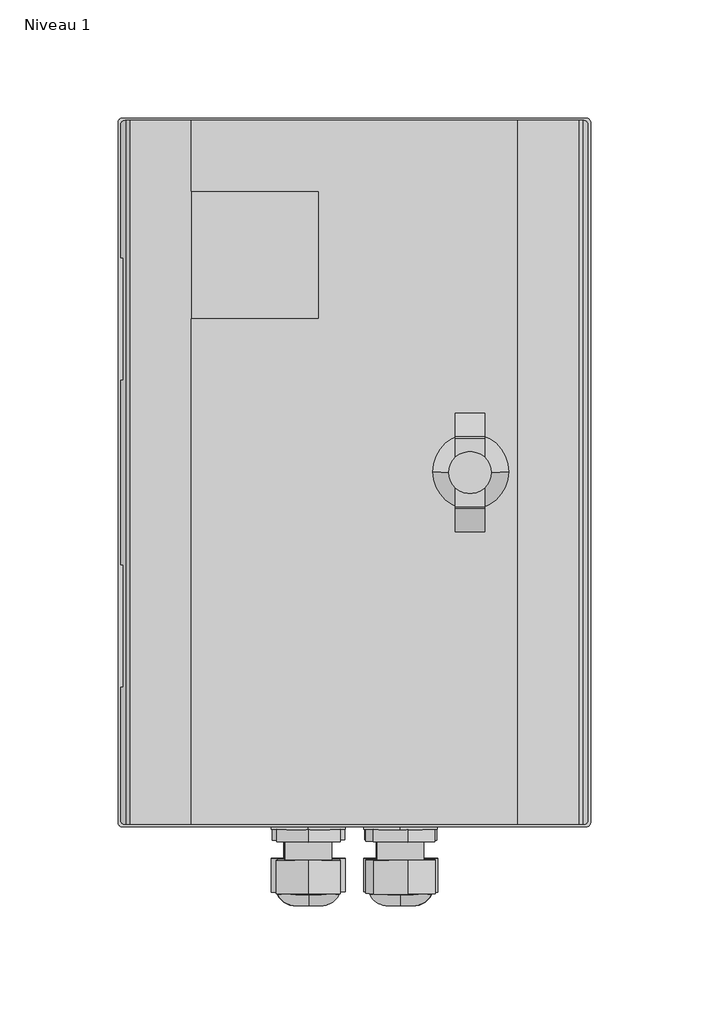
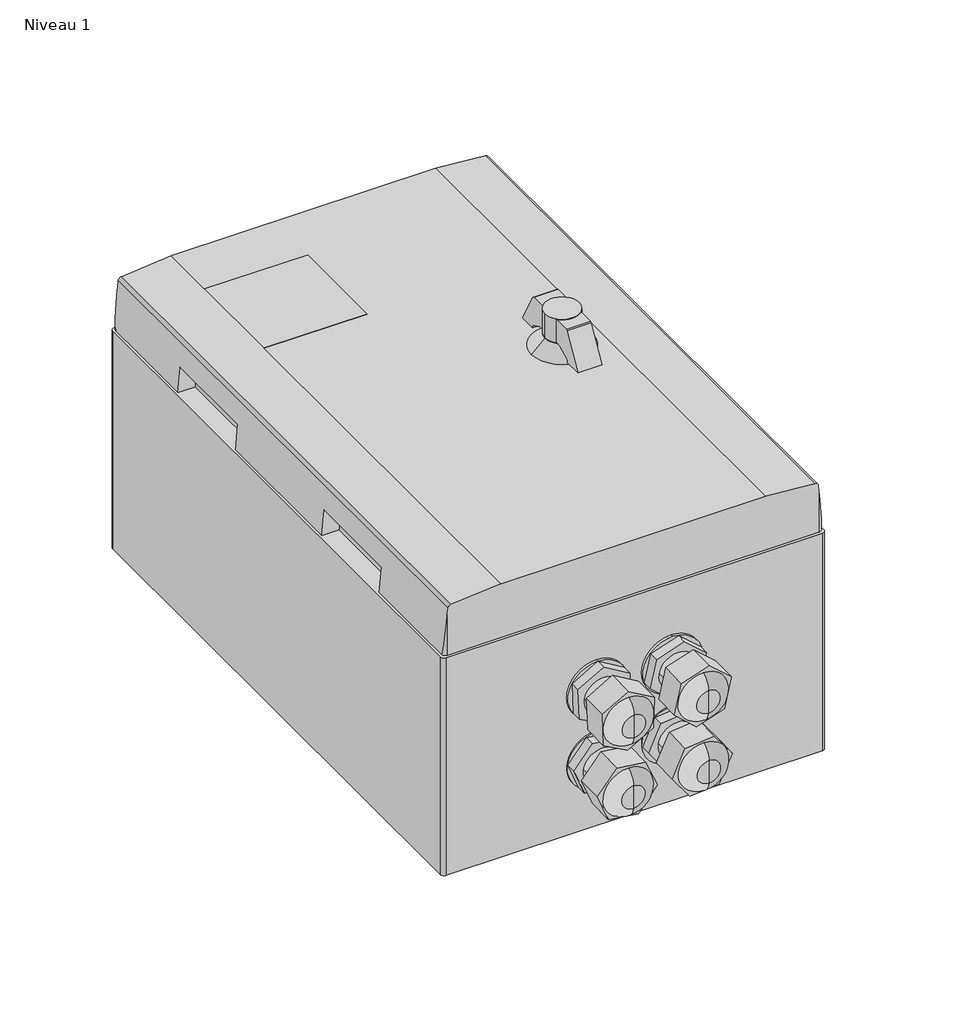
# One storey: 1 proxy.
"""IFC4 building model written with IfcOpenShell, lengths in millimetres."""

import ifcopenshell
import ifcopenshell.guid

model = None  # the IFC model being written
_history = None  # IfcOwnerHistory: only IFC2X3 demands one
_inside = {}  # id of a spatial element -> (the spatial element, [elements in it])
_under = {}  # id of a project, library or spatial element -> (it, [spatial elements below it])
_declared = {}  # id of a project -> (the project, [libraries it declares])
_typed = {}  # id of a type object -> (the type object, [elements of that type])
_made_of = {}  # id of a material, layer set ... -> (it, [elements and type objects made of it])


def new_model(schema):
    """Start an empty IFC model of exactly this schema.

    Asked for "IFC4X3", IfcOpenShell would pick the latest addendum, in which some entities
    have other attributes; the version numbers below select the first issue.
    IFC2X3 requires an IfcOwnerHistory on every rooted entity: one is made here for all.
    """
    global model, _history
    if schema == "IFC4X3":
        model = ifcopenshell.file(schema_version=(4, 3, 0, 0))
    else:
        model = ifcopenshell.file(schema=schema)
    _inside.clear()
    _under.clear()
    _declared.clear()
    _typed.clear()
    _made_of.clear()
    _history = None
    if model.schema == "IFC2X3":
        org = make("IfcOrganization", Name="unknown")
        user = make(
            "IfcPersonAndOrganization",
            ThePerson=make("IfcPerson", FamilyName="unknown"),
            TheOrganization=org,
        )
        app = make(
            "IfcApplication",
            ApplicationDeveloper=org,
            Version="unknown",
            ApplicationFullName="unknown",
            ApplicationIdentifier="unknown",
        )
        _history = make(
            "IfcOwnerHistory",
            OwningUser=user,
            OwningApplication=app,
            ChangeAction="ADDED",
            CreationDate=0,
        )
    return model


def make(cls, **values):
    """One entity of the class cls with the attributes given. An attribute that is None is left unset."""
    return model.create_entity(
        cls, **{name: value for name, value in values.items() if value is not None}
    )


def rooted(cls, **values):
    """An entity with a GlobalId (a new one), such as an element, a storey or a relation."""
    return make(cls, GlobalId=ifcopenshell.guid.new(), OwnerHistory=_history, **values)


def si_unit(unit_type, name, prefix=None):
    """IfcSIUnit, for example si_unit("LENGTHUNIT", "METRE", prefix="MILLI")."""
    return make("IfcSIUnit", UnitType=unit_type, Prefix=prefix, Name=name)


def assignment(units):
    """IfcUnitAssignment: the units of a project."""
    return None if units is None else make("IfcUnitAssignment", Units=units)


def point(xyz):
    """IfcCartesianPoint."""
    return None if xyz is None else make("IfcCartesianPoint", Coordinates=xyz)


def direction(xyz):
    """IfcDirection."""
    return None if xyz is None else make("IfcDirection", DirectionRatios=xyz)


def frame(location, z_axis=None, x_axis=None):
    """IfcAxis2Placement3D, a coordinate frame: its origin and axes. An axis left out is left unset."""
    return make(
        "IfcAxis2Placement3D",
        Location=point(location),
        Axis=direction(z_axis),
        RefDirection=direction(x_axis),
    )


def frame_2d(location, x_axis=None):
    """IfcAxis2Placement2D, a coordinate frame in the plane: its origin and x axis."""
    return make(
        "IfcAxis2Placement2D", Location=point(location), RefDirection=direction(x_axis)
    )


def origin():
    """The frame at (0, 0, 0) with its axes left unset."""
    return frame((0.0, 0.0, 0.0))


def origin_with_axes():
    """The frame at (0, 0, 0) with the z axis (0, 0, 1) and the x axis (1, 0, 0) written out."""
    return frame((0.0, 0.0, 0.0), z_axis=(0.0, 0.0, 1.0), x_axis=(1.0, 0.0, 0.0))


def place(relative_to, where):
    """IfcLocalPlacement: puts the frame where relative to a parent placement (None: the world)."""
    return make(
        "IfcLocalPlacement", PlacementRelTo=relative_to, RelativePlacement=where
    )


def context(
    kind, dimensions, precision=None, world=None, true_north=None, identifier=None
):
    """IfcGeometricRepresentationContext, for example the 3D "Model" context."""
    return make(
        "IfcGeometricRepresentationContext",
        ContextIdentifier=identifier,
        ContextType=kind,
        CoordinateSpaceDimension=dimensions,
        Precision=precision,
        WorldCoordinateSystem=world,
        TrueNorth=true_north,
    )


def project(units=None, contexts=None):
    """IfcProject with its units and contexts."""
    return rooted(
        "IfcProject",
        Name="project",
        RepresentationContexts=contexts,
        UnitsInContext=assignment(units),
    )


def spatial(cls, under=None, at=None, **own):
    """A site, building, storey or space (cls), placed at a placement, below another one or the project."""
    s = rooted(cls, ObjectPlacement=at, **own)
    if under is not None:
        _under.setdefault(under.id(), (under, []))[1].append(s)
    return s


def polyline(points):
    """IfcPolyline through the points."""
    return make("IfcPolyline", Points=[point(p) for p in points])


def circle_curve(where, radius):
    """IfcCircle in the frame where."""
    return make("IfcCircle", Position=where, Radius=radius)


def ellipse_curve(where, semi_axis1, semi_axis2):
    """IfcEllipse in the frame where."""
    return make(
        "IfcEllipse", Position=where, SemiAxis1=semi_axis1, SemiAxis2=semi_axis2
    )


def trimmed(basis, trim1, trim2, sense, master):
    """IfcTrimmedCurve: the piece of a basis curve between two trims."""
    return make(
        "IfcTrimmedCurve",
        BasisCurve=basis,
        Trim1=trim1,
        Trim2=trim2,
        SenseAgreement=sense,
        MasterRepresentation=master,
    )


def segment(curve, same_sense, transition):
    """IfcCompositeCurveSegment."""
    return make(
        "IfcCompositeCurveSegment",
        Transition=transition,
        SameSense=same_sense,
        ParentCurve=curve,
    )


def composite_curve(segments, self_intersect=None):
    """IfcCompositeCurve: segments joined end to end."""
    return make("IfcCompositeCurve", Segments=segments, SelfIntersect=self_intersect)


def outline(outer, holes=None, kind="AREA"):
    """IfcArbitraryClosedProfileDef: a profile drawn as a closed curve; with holes, ...WithVoids."""
    if holes is None:
        return make("IfcArbitraryClosedProfileDef", ProfileType=kind, OuterCurve=outer)
    return make(
        "IfcArbitraryProfileDefWithVoids",
        ProfileType=kind,
        OuterCurve=outer,
        InnerCurves=holes,
    )


def extrude(swept, where, along, depth):
    """IfcExtrudedAreaSolid: the profile swept, set in the frame where, extruded along a direction by depth."""
    return make(
        "IfcExtrudedAreaSolid",
        SweptArea=swept,
        Position=where,
        ExtrudedDirection=direction(along),
        Depth=depth,
    )


def shape(context_of_items, identifier, shape_type, items):
    """IfcShapeRepresentation: the items that make up one representation, for example the "Body"."""
    return make(
        "IfcShapeRepresentation",
        ContextOfItems=context_of_items,
        RepresentationIdentifier=identifier,
        RepresentationType=shape_type,
        Items=items,
    )


def source(mapping_origin, context_of_items, identifier, shape_type, items):
    """IfcRepresentationMap: a shape defined once, which mapped items show again and again."""
    return make(
        "IfcRepresentationMap",
        MappingOrigin=mapping_origin,
        MappedRepresentation=shape(context_of_items, identifier, shape_type, items),
    )


def transform(
    local_origin,
    x_axis=None,
    y_axis=None,
    z_axis=None,
    scale=None,
    scale2=None,
    scale3=None,
    uniform=True,
):
    """IfcCartesianTransformationOperator3D, or its non-uniform kind. x_axis, y_axis, z_axis: its Axis1, 2, 3."""
    if uniform:
        return make(
            "IfcCartesianTransformationOperator3D",
            Axis1=direction(x_axis),
            Axis2=direction(y_axis),
            LocalOrigin=point(local_origin),
            Scale=scale,
            Axis3=direction(z_axis),
        )
    return make(
        "IfcCartesianTransformationOperator3DnonUniform",
        Axis1=direction(x_axis),
        Axis2=direction(y_axis),
        LocalOrigin=point(local_origin),
        Scale=scale,
        Axis3=direction(z_axis),
        Scale2=scale2,
        Scale3=scale3,
    )


def mapped(mapping_source, mapping_target):
    """IfcMappedItem: shows the shape of a source again, moved by a transform."""
    return make(
        "IfcMappedItem", MappingSource=mapping_source, MappingTarget=mapping_target
    )


def made_of(thing, what):
    """Note that an element or type object is made of a material, layer set ...; save() writes the relation."""
    if what is not None:
        _made_of.setdefault(what.id(), (what, []))[1].append(thing)
    return thing


def element(
    cls,
    number,
    at=None,
    inside=None,
    cuts=None,
    type_object=None,
    material=None,
    context=None,
    identifier="Body",
    shape_type=None,
    held_by="IfcProductDefinitionShape",
    body=None,
    shapes=None,
    **own,
):
    """One element of the class cls, such as IfcWall. Its Tag is "e" and its number.

    at: its placement. inside: the storey or other place that contains it. cuts: it is an
    opening in that element (IfcRelVoidsElement). A single representation is given by context,
    identifier, shape_type and body (its items); several are given by shapes. held_by: the class
    of the entity that holds the representations. save() writes the other relations.
    """
    e = rooted(cls, Tag="e%d" % number, ObjectPlacement=at, **own)
    if body is not None:
        shapes = [shape(context, identifier, shape_type, body)]
    if shapes is not None:
        e.Representation = make(held_by, Representations=shapes)
    if inside is not None:
        _inside.setdefault(inside.id(), (inside, []))[1].append(e)
    if cuts is not None:
        rooted(
            "IfcRelVoidsElement", RelatingBuildingElement=cuts, RelatedOpeningElement=e
        )
    if type_object is not None:
        _typed.setdefault(type_object.id(), (type_object, []))[1].append(e)
    return made_of(e, material)


def aggregate(whole, parts):
    """IfcRelAggregates: a whole, such as a stair, and the parts it consists of."""
    return rooted("IfcRelAggregates", RelatingObject=whole, RelatedObjects=parts)


def save(model, path):
    """Write the relations noted so far, then the file.

    IfcRelAggregates (storeys below a building ...), IfcRelContainedInSpatialStructure (elements
    in a storey), IfcRelDefinesByType, IfcRelAssociatesMaterial and IfcRelDeclares: one each for
    every whole, place, type object, material and project.
    """
    for whole, parts in _under.values():
        aggregate(whole, parts)
    for where, things in _inside.values():
        rooted(
            "IfcRelContainedInSpatialStructure",
            RelatedElements=things,
            RelatingStructure=where,
        )
    for kind, things in _typed.values():
        rooted("IfcRelDefinesByType", RelatedObjects=things, RelatingType=kind)
    for what, things in _made_of.values():
        rooted("IfcRelAssociatesMaterial", RelatedObjects=things, RelatingMaterial=what)
    for by, libraries in _declared.values():
        rooted("IfcRelDeclares", RelatingContext=by, RelatedDefinitions=libraries)
    model.write(path)


def plane_surface(at):
    """IfcPlane: the flat surface through the origin of the frame at, square to its z axis."""
    return make("IfcPlane", Position=at)


def cylinder_surface(at, radius):
    """IfcCylindricalSurface: all points at the distance radius from the z axis of the frame at."""
    return make("IfcCylindricalSurface", Position=at, Radius=radius)


def revolved_surface(curve, axis_point, axis_direction):
    """IfcSurfaceOfRevolution: the curve turned about the line through axis_point along axis_direction."""
    return make(
        "IfcSurfaceOfRevolution",
        SweptCurve=make("IfcArbitraryOpenProfileDef", ProfileType="CURVE", Curve=curve),
        AxisPosition=make("IfcAxis1Placement", Location=point(axis_point), Axis=direction(axis_direction)),
    )


def spline_surface(u_degree, v_degree, points, u_multiplicities, v_multiplicities, u_knots, v_knots, weights=None):
    """IfcBSplineSurfaceWithKnots; with weights, IfcRationalBSplineSurfaceWithKnots. points: one row for each step in u."""
    own = dict(
        UDegree=u_degree,
        VDegree=v_degree,
        ControlPointsList=[[point(p) for p in row] for row in points],
        SurfaceForm="UNSPECIFIED",
        UClosed=False,
        VClosed=False,
        SelfIntersect=False,
        UMultiplicities=u_multiplicities,
        VMultiplicities=v_multiplicities,
        UKnots=u_knots,
        VKnots=v_knots,
        KnotSpec="UNSPECIFIED",
    )
    if weights is None:
        return make("IfcBSplineSurfaceWithKnots", **own)
    return make("IfcRationalBSplineSurfaceWithKnots", WeightsData=weights, **own)


def advanced_brep(points, edges, surfaces, faces):
    """IfcAdvancedBrep: a solid bounded by faces that lie on surfaces and meet in shared edges.

    An edge is (start, end): straight between two places in points (the first is 0);
    or (start, end, curve); or (start, end, curve, False) where it runs against its curve.
    A face is (place in surfaces, loops), or (place, loops, False) where it looks against
    its surface's normal. A loop lists edges by number (the first is 1), with a minus sign
    where the edge is run from its end to its start. The first loop is the outer one.
    """
    corners = [point(p) for p in points]
    vertices = [make("IfcVertexPoint", VertexGeometry=c) for c in corners]
    made = []
    for start, end, *more in edges:
        made.append(
            make(
                "IfcEdgeCurve",
                EdgeStart=vertices[start],
                EdgeEnd=vertices[end],
                EdgeGeometry=more[0] if more else make("IfcPolyline", Points=[corners[start], corners[end]]),
                SameSense=more[1] if len(more) > 1 else True,
            )
        )
    hull = []
    for where, loops, *sense in faces:
        bounds = []
        for j, loop in enumerate(loops):
            ring = [make("IfcOrientedEdge", EdgeElement=made[abs(k) - 1], Orientation=k > 0) for k in loop]
            bounds.append(
                make(
                    "IfcFaceOuterBound" if j == 0 else "IfcFaceBound",
                    Bound=make("IfcEdgeLoop", EdgeList=ring),
                    Orientation=True,
                )
            )
        hull.append(make("IfcAdvancedFace", Bounds=bounds, FaceSurface=surfaces[where], SameSense=sense[0] if sense else True))
    return make("IfcAdvancedBrep", Outer=make("IfcClosedShell", CfsFaces=hull))


def electrical_equipment_08942847(model_context):
    return source(origin(), model_context, "Body", "SolidModel", [
        advanced_brep(
        [(40.5431131, 21.2156863, 156.8), (58.3431131, 21.2156863, 156.8), (33.7079439, 21.5787102, 150.0), (65.7995243, 21.5787102, 150.0)],
        [
            (0, 1, circle_curve(frame((49.4431131, 21.2156863, 156.8), z_axis=(0.0, 0.0, 1.0), x_axis=(1.0, 0.0, 0.0)), 8.9)),
            (1, 0, circle_curve(frame((49.4431131, 21.2156863, 156.8), z_axis=(0.0, 0.0, 1.0), x_axis=(1.0, 0.0, 0.0)), 8.9)),
            (2, 3, circle_curve(frame((49.7537341, 21.5787102, 150.0), z_axis=(0.0, 0.0, -1.0), x_axis=(1.0, 0.0, 0.0)), 16.0457902)),
            (3, 2, circle_curve(frame((49.7537341, 21.5787102, 150.0), z_axis=(0.0, 0.0, -1.0), x_axis=(1.0, 0.0, 0.0)), 16.0457902)),
            (3, 1),
            (0, 2),
        ],
        [
            plane_surface(frame((49.4431131, 21.2156863, 156.8), z_axis=(0.0, 0.0, 1.0), x_axis=(0.0, -1.0, 0.0))),
            plane_surface(frame((49.7537341, 21.5787102, 150.0), z_axis=(0.0, 0.0, -1.0), x_axis=(0.0, -1.0, 0.0))),
            spline_surface(2, 1, [[(33.7079439, 21.5787102, 150.0), (40.5431131, 21.2156863, 156.8)], [(33.7079439, 5.532919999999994, 150.0), (40.5431131, 12.315686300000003, 156.8)], [(49.7537341, 5.532919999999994, 150.0), (49.4431131, 12.315686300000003, 156.8)], [(65.7995243, 5.5329199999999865, 150.0), (58.3431131, 12.3156863, 156.8)], [(65.7995243, 21.5787102, 150.0), (58.3431131, 21.2156863, 156.8)]], [3, 2, 3], [2, 2], [0.0, 1.0, 2.0], [0.0, 1.0], weights=[[1.0, 1.0], [0.7071067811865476, 0.7071067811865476], [1.0, 1.0], [0.7071067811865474, 0.7071067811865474], [1.0, 1.0]]),
            spline_surface(2, 1, [[(65.7995243, 21.5787102, 150.0), (58.3431131, 21.2156863, 156.8)], [(65.7995243, 37.6245004, 150.0), (58.3431131, 30.1156863, 156.8)], [(49.7537341, 37.6245004, 150.0), (49.4431131, 30.1156863, 156.8)], [(33.707943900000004, 37.62450039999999, 150.0), (40.5431131, 30.115686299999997, 156.8)], [(33.7079439, 21.5787102, 150.0), (40.5431131, 21.2156863, 156.8)]], [3, 2, 3], [2, 2], [0.0, 1.0, 2.0], [0.0, 1.0], weights=[[1.0, 1.0], [0.7071067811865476, 0.7071067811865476], [1.0, 1.0], [0.7071067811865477, 0.7071067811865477], [1.0, 1.0]]),
        ],
        [
            (0, [[1, 2]]),
            (1, [[3, 4]]),
            (2, [[-4, 5, -1, 6]]),
            (3, [[-3, -6, -2, -5]]),
        ],
    ),
        extrude(outline(composite_curve([segment(polyline([(5.4251933, 152.0265412), (-3.8152775, 152.0265412), (5.9963901, 169.2293643)]), True, "CONTINUOUS"), segment(trimmed(circle_curve(frame_2d((6.8065578, 168.7672834)), 0.9326792), [point((5.9963901, 169.2293643))], [point((6.6279678, 169.6827047))], False, "CARTESIAN"), True, "CONTINUOUS"), segment(polyline([(6.6279678, 169.6827047), (35.6186228, 169.6827047)]), True, "CONTINUOUS"), segment(trimmed(circle_curve(frame_2d((35.6186228, 168.632252)), 1.0504526), [point((35.6186228, 169.6827047))], [point((36.4885968, 169.220976))], False, "CARTESIAN"), True, "CONTINUOUS"), segment(polyline([(36.4885968, 169.220976), (46.3400389, 151.9484162), (37.0251933, 151.9484162), (37.0251933, 153.5429781), (30.214118, 156.889083), (12.402542, 156.889083), (7.9148521, 154.6843972), (5.4251933, 153.4612923), (5.4251933, 152.0265412)]), True, "CONTINUOUS")], self_intersect=False)), frame((43.1794615, 0.0, 0.0), z_axis=(1.0, 0.0, 0.0), x_axis=(0.0, 1.0, 0.0)), (0.0, 0.0, 1.0), 12.4973815),
        extrude(outline(composite_curve([segment(trimmed(circle_curve(frame_2d((49.4431131, 21.2156863)), 8.9), [point((40.5431131, 21.2156863))], [point((58.3431131, 21.2156863))], False, "CARTESIAN"), True, "CONTINUOUS"), segment(trimmed(circle_curve(frame_2d((49.4431131, 21.2156863)), 8.9), [point((58.3431131, 21.2156863))], [point((40.5431131, 21.2156863))], False, "CARTESIAN"), True, "CONTINUOUS")], self_intersect=False)), frame((0.0, 0.0, 156.8), z_axis=(0.0, 0.0, 1.0), x_axis=(1.0, 0.0, 0.0)), (0.0, 0.0, 1.0), 13.5),
        advanced_brep(
        [(-19.1195736, -156.9690622, 22.8102365), (-19.1195736, -157.4259613, 48.9859653), (-19.1195736, -157.1975117, 35.8981009), (-19.1195736, -161.9853672, 29.4852884), (-19.1195736, -162.2062545, 42.1399131), (-19.1195736, -162.0959476, 35.8204371)],
        [
            (0, 1, circle_curve(frame((-19.1195736, -157.1975117, 35.8981009), z_axis=(0.0, 0.9998476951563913, 0.01745240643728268), x_axis=(0.0, -0.01745240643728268, 0.9998476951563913)), 13.0898581)),
            (1, 2),
            (2, 0),
            (1, 0, circle_curve(frame((-19.1195736, -157.1975117, 35.8981009), z_axis=(0.0, 0.9998476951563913, 0.01745240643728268), x_axis=(0.0, -0.01745240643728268, 0.9998476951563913)), 13.0898581)),
            (3, 4, circle_curve(frame((-19.1195736, -162.0958108, 35.8126008), z_axis=(0.0, 0.9998476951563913, 0.01745240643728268), x_axis=(0.0, -0.01745240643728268, 0.9998476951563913)), 6.3282762)),
            (4, 1, circle_curve(frame((-19.1195736, -154.0017186, 41.5030103), z_axis=(-1.0, 0.0, 0.0), x_axis=(0.0, -1.0, 0.0)), 8.2292195)),
            (0, 3, circle_curve(frame((-19.1195736, -153.8080569, 30.4081375), z_axis=(-1.0, 0.0, 0.0), x_axis=(0.0, -0.9993908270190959, -0.034899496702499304)), 8.2292195)),
            (4, 3, circle_curve(frame((-19.1195736, -162.0958108, 35.8126008), z_axis=(0.0, 0.9998476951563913, 0.01745240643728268), x_axis=(0.0, -0.01745240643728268, 0.9998476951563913)), 6.3282762)),
            (5, 4),
            (3, 5),
        ],
        [
            plane_surface(frame((-19.1195736, -157.1975117, 35.8981009), z_axis=(0.0, 0.9998476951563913, 0.01745240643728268), x_axis=(0.0, -0.01745240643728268, 0.9998476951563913))),
            revolved_surface(trimmed(ellipse_curve(frame((-19.1195736, -154.0017186, 41.5030103), z_axis=(1.0, 0.0, 0.0), x_axis=(0.0, -1.0, 0.0)), 8.2292195, 8.2292195), [point((-19.1195736, -157.4259613, 48.9859653))], [point((-19.1195736, -162.2062545, 42.1399131))], True, "CARTESIAN"), (-19.1195736, -157.1975117, 35.8981009), (0.0, -0.9998476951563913, -0.01745240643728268)),
            plane_surface(frame((-19.1195736, -162.0958108, 35.8126008), z_axis=(0.0, -0.9998476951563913, -0.01745240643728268), x_axis=(0.0, -0.01745240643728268, 0.9998476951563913))),
        ],
        [
            (0, [[1, 2, 3]]),
            (0, [[4, -3, -2]]),
            (1, [[5, 6, -1, 7]]),
            (1, [[8, -7, -4, -6]]),
            (2, [[9, -5, 10]]),
            (2, [[-10, -8, -9]]),
        ],
    ),
        advanced_brep(
        [(20.2368508, -156.9690622, 22.9587386), (20.2368508, -157.4259613, 49.1344675), (20.2368508, -157.1975117, 36.046603), (20.2368508, -161.9853672, 29.6337905), (20.2368508, -162.2062545, 42.2884153), (20.2368508, -162.0959476, 35.9689393)],
        [
            (0, 1, circle_curve(frame((20.2368508, -157.1975117, 36.046603), z_axis=(0.0, 0.9998476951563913, 0.01745240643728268), x_axis=(0.0, -0.01745240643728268, 0.9998476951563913)), 13.0898581)),
            (1, 2),
            (2, 0),
            (1, 0, circle_curve(frame((20.2368508, -157.1975117, 36.046603), z_axis=(0.0, 0.9998476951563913, 0.01745240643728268), x_axis=(0.0, -0.01745240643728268, 0.9998476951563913)), 13.0898581)),
            (3, 4, circle_curve(frame((20.2368508, -162.0958108, 35.9611029), z_axis=(0.0, 0.9998476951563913, 0.01745240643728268), x_axis=(0.0, -0.01745240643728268, 0.9998476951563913)), 6.3282762)),
            (4, 1, circle_curve(frame((20.2368508, -154.0017186, 41.6515124), z_axis=(-1.0, 0.0, 0.0), x_axis=(0.0, -1.0, 0.0)), 8.2292195)),
            (0, 3, circle_curve(frame((20.2368508, -153.8080569, 30.5566396), z_axis=(-1.0, 0.0, 0.0), x_axis=(0.0, -0.9993908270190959, -0.034899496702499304)), 8.2292195)),
            (4, 3, circle_curve(frame((20.2368508, -162.0958108, 35.9611029), z_axis=(0.0, 0.9998476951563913, 0.01745240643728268), x_axis=(0.0, -0.01745240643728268, 0.9998476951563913)), 6.3282762)),
            (5, 4),
            (3, 5),
        ],
        [
            plane_surface(frame((20.2368508, -157.1975117, 36.046603), z_axis=(0.0, 0.9998476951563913, 0.01745240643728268), x_axis=(0.0, -0.01745240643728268, 0.9998476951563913))),
            revolved_surface(trimmed(ellipse_curve(frame((20.2368508, -154.0017186, 41.6515124), z_axis=(1.0, 0.0, 0.0), x_axis=(0.0, -1.0, 0.0)), 8.2292195, 8.2292195), [point((20.2368508, -157.4259613, 49.1344675))], [point((20.2368508, -162.2062545, 42.2884153))], True, "CARTESIAN"), (20.2368508, -157.1975117, 36.046603), (0.0, -0.9998476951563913, -0.01745240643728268)),
            plane_surface(frame((20.2368508, -162.0958108, 35.9611029), z_axis=(0.0, -0.9998476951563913, -0.01745240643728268), x_axis=(0.0, -0.01745240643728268, 0.9998476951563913))),
        ],
        [
            (0, [[1, 2, 3]]),
            (0, [[4, -3, -2]]),
            (1, [[5, 6, -1, 7]]),
            (1, [[8, -7, -4, -6]]),
            (2, [[9, -5, 10]]),
            (2, [[-10, -8, -9]]),
        ],
    ),
        advanced_brep(
        [(19.9923466, -156.9690622, 61.6697777), (19.9923466, -157.4259613, 87.8455066), (19.9923466, -157.1975117, 74.7576422), (19.9923466, -161.9853672, 68.3448297), (19.9923466, -162.2062545, 80.9994544), (19.9923466, -162.0959476, 74.6799784)],
        [
            (0, 1, circle_curve(frame((19.9923466, -157.1975117, 74.7576422), z_axis=(0.0, 0.9998476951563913, 0.01745240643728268), x_axis=(0.0, -0.01745240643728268, 0.9998476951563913)), 13.0898581)),
            (1, 2),
            (2, 0),
            (1, 0, circle_curve(frame((19.9923466, -157.1975117, 74.7576422), z_axis=(0.0, 0.9998476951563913, 0.01745240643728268), x_axis=(0.0, -0.01745240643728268, 0.9998476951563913)), 13.0898581)),
            (3, 4, circle_curve(frame((19.9923466, -162.0958108, 74.672142), z_axis=(0.0, 0.9998476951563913, 0.01745240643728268), x_axis=(0.0, -0.01745240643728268, 0.9998476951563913)), 6.3282762)),
            (4, 1, circle_curve(frame((19.9923466, -154.0017186, 80.3625515), z_axis=(-1.0, 0.0, 0.0), x_axis=(0.0, -1.0, 0.0)), 8.2292195)),
            (0, 3, circle_curve(frame((19.9923466, -153.8080569, 69.2676787), z_axis=(-1.0, 0.0, 0.0), x_axis=(0.0, -0.9993908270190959, -0.034899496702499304)), 8.2292195)),
            (4, 3, circle_curve(frame((19.9923466, -162.0958108, 74.672142), z_axis=(0.0, 0.9998476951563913, 0.01745240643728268), x_axis=(0.0, -0.01745240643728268, 0.9998476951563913)), 6.3282762)),
            (5, 4),
            (3, 5),
        ],
        [
            plane_surface(frame((19.9923466, -157.1975117, 74.7576422), z_axis=(0.0, 0.9998476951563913, 0.01745240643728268), x_axis=(0.0, -0.01745240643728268, 0.9998476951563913))),
            revolved_surface(trimmed(ellipse_curve(frame((19.9923466, -154.0017186, 80.3625515), z_axis=(1.0, 0.0, 0.0), x_axis=(0.0, -1.0, 0.0)), 8.2292195, 8.2292195), [point((19.9923466, -157.4259613, 87.8455066))], [point((19.9923466, -162.2062545, 80.9994544))], True, "CARTESIAN"), (19.9923466, -157.1975117, 74.7576422), (0.0, -0.9998476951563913, -0.01745240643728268)),
            plane_surface(frame((19.9923466, -162.0958108, 74.672142), z_axis=(0.0, -0.9998476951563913, -0.01745240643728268), x_axis=(0.0, -0.01745240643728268, 0.9998476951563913))),
        ],
        [
            (0, [[1, 2, 3]]),
            (0, [[4, -3, -2]]),
            (1, [[5, 6, -1, 7]]),
            (1, [[8, -7, -4, -6]]),
            (2, [[9, -5, 10]]),
            (2, [[-10, -8, -9]]),
        ],
    ),
        advanced_brep(
        [(-18.921985, -156.9690622, 61.7714521), (-18.921985, -157.4259613, 87.9471809), (-18.921985, -157.1975117, 74.8593165), (-18.921985, -161.9853672, 68.446504), (-18.921985, -162.2062545, 81.1011287), (-18.921985, -162.0959476, 74.7816527)],
        [
            (0, 1, circle_curve(frame((-18.921985, -157.1975117, 74.8593165), z_axis=(0.0, 0.9998476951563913, 0.01745240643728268), x_axis=(0.0, -0.01745240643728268, 0.9998476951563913)), 13.0898581)),
            (1, 2),
            (2, 0),
            (1, 0, circle_curve(frame((-18.921985, -157.1975117, 74.8593165), z_axis=(0.0, 0.9998476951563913, 0.01745240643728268), x_axis=(0.0, -0.01745240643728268, 0.9998476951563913)), 13.0898581)),
            (3, 4, circle_curve(frame((-18.921985, -162.0958108, 74.7738164), z_axis=(0.0, 0.9998476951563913, 0.01745240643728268), x_axis=(0.0, -0.01745240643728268, 0.9998476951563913)), 6.3282762)),
            (4, 1, circle_curve(frame((-18.921985, -154.0017186, 80.4642259), z_axis=(-1.0, 0.0, 0.0), x_axis=(0.0, -1.0, 0.0)), 8.2292195)),
            (0, 3, circle_curve(frame((-18.921985, -153.8080569, 69.369353), z_axis=(-1.0, 0.0, 0.0), x_axis=(0.0, -0.9993908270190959, -0.034899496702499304)), 8.2292195)),
            (4, 3, circle_curve(frame((-18.921985, -162.0958108, 74.7738164), z_axis=(0.0, 0.9998476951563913, 0.01745240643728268), x_axis=(0.0, -0.01745240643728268, 0.9998476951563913)), 6.3282762)),
            (5, 4),
            (3, 5),
        ],
        [
            plane_surface(frame((-18.921985, -157.1975117, 74.8593165), z_axis=(0.0, 0.9998476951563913, 0.01745240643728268), x_axis=(0.0, -0.01745240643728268, 0.9998476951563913))),
            revolved_surface(trimmed(ellipse_curve(frame((-18.921985, -154.0017186, 80.4642259), z_axis=(1.0, 0.0, 0.0), x_axis=(0.0, -1.0, 0.0)), 8.2292195, 8.2292195), [point((-18.921985, -157.4259613, 87.9471809))], [point((-18.921985, -162.2062545, 81.1011287))], True, "CARTESIAN"), (-18.921985, -157.1975117, 74.8593165), (0.0, -0.9998476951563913, -0.01745240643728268)),
            plane_surface(frame((-18.921985, -162.0958108, 74.7738164), z_axis=(0.0, -0.9998476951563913, -0.01745240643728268), x_axis=(0.0, -0.01745240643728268, 0.9998476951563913))),
        ],
        [
            (0, [[1, 2, 3]]),
            (0, [[4, -3, -2]]),
            (1, [[5, 6, -1, 7]]),
            (1, [[8, -7, -4, -6]]),
            (2, [[9, -5, 10]]),
            (2, [[-10, -8, -9]]),
        ],
    ),
        extrude(outline(composite_curve([segment(trimmed(circle_curve(frame_2d((0.0, -10.0)), 10.0), [point((0.0, -20.0))], [point((0.0, 0.0))], False, "CARTESIAN"), True, "CONTINUOUS"), segment(trimmed(circle_curve(frame_2d((0.0, -10.0)), 10.0), [point((0.0, 0.0))], [point((0.0, -20.0))], False, "CARTESIAN"), True, "CONTINUOUS")], self_intersect=False)), frame((-9.4327296, -141.9789955, 34.5544184), z_axis=(0.0, 0.9998476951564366, 0.017452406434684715), x_axis=(0.14715455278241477, -0.017262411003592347, 0.988962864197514)), (0.0, 0.0, 1.0), 7.7),
        extrude(outline(composite_curve([segment(trimmed(circle_curve(frame_2d((0.0, -10.0)), 10.0), [point((0.0, -20.0))], [point((0.0, 0.0))], False, "CARTESIAN"), True, "CONTINUOUS"), segment(trimmed(circle_curve(frame_2d((0.0, -10.0)), 10.0), [point((0.0, 0.0))], [point((0.0, -20.0))], False, "CARTESIAN"), True, "CONTINUOUS")], self_intersect=False)), frame((29.6824691, -141.9897168, 35.1686442), z_axis=(0.0, 0.9998476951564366, 0.017452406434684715), x_axis=(0.14715455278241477, -0.017262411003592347, 0.988962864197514)), (0.0, 0.0, 1.0), 7.7),
        extrude(outline(composite_curve([segment(trimmed(circle_curve(frame_2d((0.0, -10.0)), 10.0), [point((0.0, -20.0000001))], [point((0.0, 0.0))], False, "CARTESIAN"), True, "CONTINUOUS"), segment(trimmed(circle_curve(frame_2d((0.0, -10.0)), 10.0), [point((0.0, 0.0))], [point((0.0, -20.0000001))], False, "CARTESIAN"), True, "CONTINUOUS")], self_intersect=False)), frame((29.7042187, -142.6696703, 74.1231554), z_axis=(0.0, 0.9998476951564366, 0.017452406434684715), x_axis=(0.14715455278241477, -0.017262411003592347, 0.988962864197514)), (0.0, 0.0, 1.0), 7.7),
        extrude(outline(composite_curve([segment(trimmed(circle_curve(frame_2d((0.0, -10.0)), 10.0), [point((1e-07, -20.0))], [point((0.0, 0.0))], False, "CARTESIAN"), True, "CONTINUOUS"), segment(trimmed(circle_curve(frame_2d((0.0, -10.0)), 10.0), [point((0.0, 0.0))], [point((1e-07, -20.0))], False, "CARTESIAN"), True, "CONTINUOUS")], self_intersect=False)), frame((-9.2598135, -142.6642324, 73.8116168), z_axis=(0.0, 0.9998476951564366, 0.017452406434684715), x_axis=(0.14715455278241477, -0.017262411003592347, 0.988962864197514)), (0.0, 0.0, 1.0), 7.7),
        extrude(outline(polyline([(-16.509206, 0.0), (-0.8388127, 0.0), (7.3867132, -15.8865773), (0.0, -28.0677737), (-15.4531538, -28.1777285), (-24.1949184, -13.7335266), (-16.509206, 0.0)])), frame((-33.3268547, -157.1727427, 82.7842686), z_axis=(0.0, 0.9998476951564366, 0.017452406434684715), x_axis=(-0.8633498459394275, 0.008806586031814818, -0.5045289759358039)), (0.0, 0.0, 1.0), 14.3497062),
        extrude(outline(polyline([(-52.6388818, -21.7823796), (-37.8051928, -18.6923072), (-26.4715, -31.1657021), (-31.2691458, -45.906835), (-46.2792507, -49.0336575), (-57.5128449, -36.4551056), (-52.6388818, -21.7823796)])), frame((-33.3268547, -157.1727427, 82.7842686), z_axis=(0.0, 0.9998476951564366, 0.017452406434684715), x_axis=(-0.8633498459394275, 0.008806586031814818, -0.5045289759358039)), (0.0, 0.0, 1.0), 14.3497062),
        extrude(outline(polyline([(8.8907975, -32.2290081), (23.7510206, -38.0019673), (26.1637329, -53.6462746), (13.7889793, -63.584193), (-1.0663622, -57.5119341), (-2.9750776, -41.4267802), (8.8907975, -32.2290081)])), frame((-33.3268547, -157.1727427, 82.7842686), z_axis=(0.0, 0.9998476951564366, 0.017452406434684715), x_axis=(-0.8633498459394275, 0.008806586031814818, -0.5045289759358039)), (0.0, 0.0, 1.0), 14.3497062),
        extrude(outline(polyline([(-21.067793, -51.7188659), (-8.0846214, -61.2325106), (-9.5801094, -77.0802923), (-23.3036698, -83.4119521), (-36.7245514, -73.9330698), (-34.9868617, -58.022063), (-21.067793, -51.7188659)])), frame((-33.3268547, -157.1727427, 82.7842686), z_axis=(0.0, 0.9998476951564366, 0.017452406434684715), x_axis=(-0.8633498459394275, 0.008806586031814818, -0.5045289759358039)), (0.0, 0.0, 1.0), 14.3497062),
        extrude(outline(polyline([(-15.7437019, 0.0), (-0.2530858, 0.0), (7.3867132, -14.7553189), (0.0, -26.9365152), (-15.4531538, -27.0464701), (-23.4682605, -13.8029403), (-15.7437019, 0.0)])), frame((-32.6640435, -135.1254923, 83.1173883), z_axis=(0.0, 0.9998476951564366, 0.017452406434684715), x_axis=(-0.8633498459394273, 0.008806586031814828, -0.5045289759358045)), (0.0, 0.0, 1.0), 5.3),
        extrude(outline(polyline([(-51.8171027, -21.6798238), (-36.888457, -18.5699705), (-26.4714999, -30.0344436), (-31.2691458, -44.7755766), (-46.2792508, -47.902399), (-56.6647873, -36.2734397), (-51.8171027, -21.6798238)])), frame((-32.6640435, -135.1254923, 83.1173883), z_axis=(0.0, 0.9998476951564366, 0.017452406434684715), x_axis=(-0.8633498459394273, 0.008806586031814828, -0.5045289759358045)), (0.0, 0.0, 1.0), 5.3),
        extrude(outline(polyline([(9.536516, -32.0430554), (23.8649471, -37.609422), (26.2171362, -52.8612904), (14.1101122, -62.5842006), (-0.4935895, -56.6148018), (-2.3188782, -41.2327033), (9.536516, -32.0430554)])), frame((-32.6640435, -135.1254923, 83.1173883), z_axis=(0.0, 0.9998476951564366, 0.017452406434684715), x_axis=(-0.8633498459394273, 0.008806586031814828, -0.5045289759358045)), (0.0, 0.0, 1.0), 5.3),
        extrude(outline(polyline([(-20.4636823, -51.5489871), (-7.9622428, -60.7096343), (-9.3921364, -75.8623084), (-23.3036697, -82.2806937), (-36.0105807, -73.3060735), (-34.3196957, -57.82363), (-20.4636823, -51.5489871)])), frame((-32.6640435, -135.1254923, 83.1173883), z_axis=(0.0, 0.9998476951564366, 0.017452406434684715), x_axis=(-0.8633498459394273, 0.008806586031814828, -0.5045289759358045)), (0.0, 0.0, 1.0), 5.3),
        extrude(outline(composite_curve([segment(trimmed(circle_curve(frame_2d((0.0, -15.6)), 15.6), [point((0.0, -31.2))], [point((0.0, 0.0))], False, "CARTESIAN"), True, "CONTINUOUS"), segment(trimmed(circle_curve(frame_2d((0.0, -15.6)), 15.6), [point((0.0, 0.0))], [point((0.0, -31.2))], False, "CARTESIAN"), True, "CONTINUOUS")], self_intersect=False)), frame((-19.0602244, -129.9662964, 91.2303025), z_axis=(0.0, 0.9998476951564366, 0.017452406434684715), x_axis=(-1.0, 0.0, 0.0)), (0.0, 0.0, 1.0), 1.7),
        extrude(outline(composite_curve([segment(trimmed(circle_curve(frame_2d((-39.0586818, -15.6077028)), 15.6), [point((-39.0586818, -31.2077028))], [point((-39.0586818, -0.0077028))], False, "CARTESIAN"), True, "CONTINUOUS"), segment(trimmed(circle_curve(frame_2d((-39.0586818, -15.6077028)), 15.6), [point((-39.0586818, -0.0077028))], [point((-39.0586818, -31.2077028))], False, "CARTESIAN"), True, "CONTINUOUS")], self_intersect=False)), frame((-19.0602244, -129.9662964, 91.2303025), z_axis=(0.0, 0.9998476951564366, 0.017452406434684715), x_axis=(-1.0, 0.0, 0.0)), (0.0, 0.0, 1.0), 1.7),
        extrude(outline(composite_curve([segment(trimmed(circle_curve(frame_2d((-39.0663249, -54.6201329)), 15.6), [point((-39.0663249, -70.2201329))], [point((-39.0663249, -39.0201329))], False, "CARTESIAN"), True, "CONTINUOUS"), segment(trimmed(circle_curve(frame_2d((-39.0663249, -54.6201329)), 15.6), [point((-39.0663249, -39.0201329))], [point((-39.0663249, -70.2201329))], False, "CARTESIAN"), True, "CONTINUOUS")], self_intersect=False)), frame((-19.0602244, -129.9662964, 91.2303025), z_axis=(0.0, 0.9998476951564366, 0.017452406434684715), x_axis=(-1.0, 0.0, 0.0)), (0.0, 0.0, 1.0), 1.7),
        extrude(outline(composite_curve([segment(trimmed(circle_curve(frame_2d((-0.1177611, -54.57052)), 15.6), [point((-0.1177611, -70.17052))], [point((-0.1177611, -38.97052))], False, "CARTESIAN"), True, "CONTINUOUS"), segment(trimmed(circle_curve(frame_2d((-0.1177611, -54.57052)), 15.6), [point((-0.1177611, -38.97052))], [point((-0.1177611, -70.17052))], False, "CARTESIAN"), True, "CONTINUOUS")], self_intersect=False)), frame((-19.0602244, -129.9662964, 91.2303025), z_axis=(0.0, 0.9998476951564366, 0.017452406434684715), x_axis=(-1.0, 0.0, 0.0)), (0.0, 0.0, 1.0), 1.7),
        extrude(outline(polyline([(0.0, -25.0), (0.0, 0.0), (0.2270424, 0.0), (0.2270424, -25.0), (0.0, -25.0)])), frame((98.5769958, -91.6574181, 12.9315434), z_axis=(0.017452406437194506, 0.0, 0.9998476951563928), x_axis=(0.9998476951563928, 0.0, -0.017452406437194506)), (0.0, 0.0, 1.0), 48.0),
        extrude(outline(composite_curve([segment(polyline([(-99.5129757, -126.9615501), (-99.5129757, 169.4112742)]), True, "CONTINUOUS"), segment(trimmed(circle_curve(frame_2d((-97.6924643, 169.4112742)), 1.8205114), [point((-99.5129757, 169.4112742))], [point((-97.6924643, 171.2317856))], False, "CARTESIAN"), True, "CONTINUOUS"), segment(polyline([(-97.6924643, 171.2317856), (98.7030991, 171.2317856)]), True, "CONTINUOUS"), segment(trimmed(circle_curve(frame_2d((98.7030991, 169.4478604)), 1.7839251), [point((98.7030991, 171.2317856))], [point((100.4870243, 169.4478604))], False, "CARTESIAN"), True, "CONTINUOUS"), segment(polyline([(100.4870243, 169.4478604), (100.4870243, -126.9676806)]), True, "CONTINUOUS"), segment(trimmed(circle_curve(frame_2d((98.5540703, -126.831628)), 1.9377362), [point((100.4870243, -126.9676806))], [point((98.6208117, -128.7682144))], False, "CARTESIAN"), True, "CONTINUOUS"), segment(polyline([(98.6208117, -128.7682144), (-97.7063114, -128.7682144)]), True, "CONTINUOUS"), segment(trimmed(circle_curve(frame_2d((-97.7063114, -126.9615501)), 1.8066643), [point((-97.7063114, -128.7682144))], [point((-99.5129757, -126.9615501))], False, "CARTESIAN"), True, "CONTINUOUS")], self_intersect=False)), origin_with_axes(), (0.0, 0.0, 1.0), 120.0),
        advanced_brep(
        [(-68.5129757, -127.7682144, 150.0), (69.4870243, -127.7682144, 150.0), (69.4870243, 170.2317856, 150.0), (-68.5129757, 170.2317856, 150.0), (-68.5129757, 140.2317856, 150.0), (-14.5129757, 140.2317856, 150.0), (-14.5129757, 86.2317856, 150.0), (-68.5129757, 86.2317856, 150.0), (-98.5129757, -69.7682144, 120.0), (-89.5129757, -69.7682144, 120.0), (-89.5129757, -17.7682144, 120.0), (-98.5129757, -17.7682144, 120.0), (-98.5129757, 60.2317856, 120.0), (-89.5129757, 60.2317856, 120.0), (-89.5129757, 112.2317856, 120.0), (-98.5129757, 112.2317856, 120.0), (-98.5129757, 168.2393962, 120.0), (-96.5205863, 170.2317856, 120.0), (97.4946349, 170.2317856, 120.0), (99.4870243, 168.2393962, 120.0), (99.4870243, -125.775825, 120.0), (97.4946349, -127.7682144, 120.0), (-96.5205863, -127.7682144, 120.0), (-98.5129757, -125.775825, 120.0), (-96.5205863, -127.7682144, 142.773115), (97.4946349, -127.7682144, 142.773115), (97.1973221, -127.7682144, 146.1714161), (95.4011461, -127.7682144, 147.7328081), (-94.4270975, -127.7682144, 147.7328081), (-96.2272542, -127.7682144, 146.1259168), (97.4946349, 170.2317856, 142.773115), (-96.5205863, 170.2317856, 142.773115), (-96.2272542, 170.2317856, 146.1259168), (-94.4270975, 170.2317856, 147.7328081), (95.4011461, 170.2317856, 147.7328081), (97.1973221, 170.2317856, 146.1714161), (-89.5129757, 112.2317856, 134.0), (-97.2881344, 112.2317856, 134.0), (-97.2881344, 60.2317856, 134.0), (-89.5129757, 60.2317856, 134.0), (-89.5129757, -17.7682144, 134.0), (-97.2881344, -17.7682144, 134.0), (-97.2881344, -69.7682144, 134.0), (-89.5129757, -69.7682144, 134.0), (-14.5129757, 86.2317856, 150.2), (-14.5129757, 140.2317856, 150.2), (-68.5129757, 140.2317856, 150.2), (-68.5129757, 86.2317856, 150.2)],
        [
            (0, 1),
            (1, 2),
            (2, 3),
            (3, 4),
            (4, 5),
            (5, 6),
            (6, 7),
            (7, 0),
            (8, 9),
            (9, 10),
            (10, 11),
            (11, 12),
            (12, 13),
            (13, 14),
            (14, 15),
            (15, 16),
            (16, 17, circle_curve(frame((-96.5205863, 168.2393962, 120.0), z_axis=(0.0, 0.0, -1.0), x_axis=(1.0, 0.0, 0.0)), 1.9923894)),
            (17, 18),
            (18, 19, circle_curve(frame((97.4946349, 168.2393962, 120.0), z_axis=(0.0, 0.0, -1.0), x_axis=(1.0, 0.0, 0.0)), 1.9923894)),
            (19, 20),
            (20, 21, circle_curve(frame((97.4946349, -125.775825, 120.0), z_axis=(0.0, 0.0, -1.0), x_axis=(1.0, 0.0, 0.0)), 1.9923894)),
            (21, 22),
            (22, 23, circle_curve(frame((-96.5205863, -125.775825, 120.0), z_axis=(0.0, 0.0, -1.0), x_axis=(1.0, 0.0, 0.0)), 1.9923894)),
            (23, 8),
            (22, 24),
            (24, 23, ellipse_curve(frame((-96.5205863, -125.775825, 142.773115), z_axis=(0.9961946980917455, 0.0, -0.08715574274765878), x_axis=(0.08715574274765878, 0.0, 0.9961946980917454)), 22.8601046, 1.9923894)),
            (21, 25),
            (25, 26),
            (26, 27, circle_curve(frame((95.2246982, -127.7682144, 145.716), z_axis=(0.0, -1.0, 0.0), x_axis=(1.0, 0.0, 0.0)), 2.024512)),
            (27, 1),
            (0, 28),
            (28, 29, circle_curve(frame((-94.2513635, -127.7682144, 145.7241591), z_axis=(0.0, -1.0, 0.0), x_axis=(1.0, 0.0, 0.0)), 2.0163217)),
            (29, 24),
            (20, 25, ellipse_curve(frame((97.4946349, -125.775825, 142.773115), z_axis=(-0.9961946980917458, 0.0, -0.08715574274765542), x_axis=(-0.08715574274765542, 0.0, 0.9961946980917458)), 22.8601046, 1.9923894)),
            (18, 30),
            (30, 19, ellipse_curve(frame((97.4946349, 168.2393962, 142.773115), z_axis=(-0.9961946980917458, 0.0, -0.08715574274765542), x_axis=(-0.08715574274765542, 0.0, 0.9961946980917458)), 22.8601046, 1.9923894)),
            (17, 31),
            (31, 32),
            (32, 33, circle_curve(frame((-94.2513635, 170.2317856, 145.7241591), z_axis=(0.0, 1.0, 0.0), x_axis=(1.0, 0.0, 0.0)), 2.0163217)),
            (33, 3),
            (2, 34),
            (34, 35, circle_curve(frame((95.2246982, 170.2317856, 145.716), z_axis=(0.0, 1.0, 0.0), x_axis=(1.0, 0.0, 0.0)), 2.024512)),
            (35, 30),
            (16, 31, ellipse_curve(frame((-96.5205863, 168.2393962, 142.773115), z_axis=(0.9961946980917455, 0.0, -0.08715574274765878), x_axis=(0.08715574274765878, 0.0, 0.9961946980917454)), 22.8601046, 1.9923894)),
            (14, 36),
            (36, 37),
            (37, 15),
            (12, 38),
            (38, 39),
            (39, 13),
            (10, 40),
            (40, 41),
            (41, 11),
            (8, 42),
            (42, 43),
            (43, 9),
            (27, 34),
            (26, 35),
            (33, 28),
            (7, 4),
            (29, 32),
            (37, 38),
            (41, 42),
            (44, 45),
            (45, 46),
            (46, 47),
            (47, 44),
            (44, 6),
            (5, 45),
            (4, 46),
            (7, 47),
            (39, 36),
            (43, 40),
        ],
        [
            plane_surface(frame((-94.5281969, -125.775825, 150.0), z_axis=(0.0, 0.0, 1.0), x_axis=(0.0, 1.0, 0.0))),
            plane_surface(frame((-94.5281969, -125.775825, 120.0), z_axis=(0.0, 0.0, -1.0), x_axis=(0.0, -1.0, 0.0))),
            cylinder_surface(frame((-96.5205863, -125.775825, 120.0), z_axis=(0.0, 0.0, 1.0), x_axis=(1.0, 0.0, 0.0)), 1.9923894),
            plane_surface(frame((-96.5205863, -127.7682144, 150.0), z_axis=(0.0, -1.0, 0.0), x_axis=(0.0, 0.0, -1.0))),
            cylinder_surface(frame((97.4946349, -125.775825, 120.0), z_axis=(0.0, 0.0, 1.0), x_axis=(1.0, 0.0, 0.0)), 1.9923894),
            cylinder_surface(frame((97.4946349, 168.2393962, 120.0), z_axis=(0.0, 0.0, 1.0), x_axis=(1.0, 0.0, 0.0)), 1.9923894),
            plane_surface(frame((97.4946349, 170.2317856, 150.0), z_axis=(0.0, 1.0, 0.0), x_axis=(0.0, 0.0, -1.0))),
            cylinder_surface(frame((-96.5205863, 168.2393962, 120.0), z_axis=(0.0, 0.0, 1.0), x_axis=(1.0, 0.0, 0.0)), 1.9923894),
            plane_surface(frame((-98.5129757, 112.2317856, 150.0), z_axis=(0.0, -1.0, 0.0), x_axis=(0.0, 0.0, -1.0))),
            plane_surface(frame((-97.2881344, 60.2317856, 150.0), z_axis=(0.0, 1.0, 0.0), x_axis=(0.0, 0.0, -1.0))),
            plane_surface(frame((-98.5129757, -17.7682144, 150.0), z_axis=(0.0, -1.0, 0.0), x_axis=(0.0, 0.0, -1.0))),
            plane_surface(frame((-97.2881344, -69.7682144, 150.0), z_axis=(0.0, 1.0, 0.0), x_axis=(0.0, 0.0, -1.0))),
            plane_surface(frame((69.4870243, -128.7682144, 150.0), z_axis=(0.08715574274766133, 0.0, 0.9961946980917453), x_axis=(0.0, 1.0, 0.0))),
            cylinder_surface(frame((95.2246982, 171.2317856, 145.716), z_axis=(0.0, 1.0, 0.0), x_axis=(1.0, 0.0, 0.0)), 2.024512),
            plane_surface(frame((97.1973221, -128.7682144, 146.1714161), z_axis=(0.9961946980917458, 0.0, 0.08715574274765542), x_axis=(0.0, 1.0, 0.0))),
            plane_surface(frame((-94.4270975, -128.7682144, 147.7328081), z_axis=(-0.08715574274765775, 0.0, 0.9961946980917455), x_axis=(0.0, 1.0, 0.0))),
            plane_surface(frame((-98.5129757, -128.7682144, 120.0), z_axis=(-0.9961946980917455, 0.0, 0.08715574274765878), x_axis=(0.0, 1.0, 0.0))),
            cylinder_surface(frame((-94.2513635, 171.2317856, 145.7241591), z_axis=(0.0, 1.0, 0.0), x_axis=(1.0, 0.0, 0.0)), 2.0163217),
            plane_surface(frame((-14.5129757, 86.2317856, 150.2), z_axis=(0.0, 0.0, 1.0), x_axis=(0.0, 1.0, 0.0))),
            plane_surface(frame((-14.5129757, 86.2317856, 150.2), z_axis=(1.0, 0.0, 0.0), x_axis=(0.0, 0.0, -1.0))),
            plane_surface(frame((-14.5129757, 140.2317856, 150.2), z_axis=(0.0, 1.0, 0.0), x_axis=(0.0, 0.0, -1.0))),
            plane_surface(frame((-68.5129757, 140.2317856, 150.2), z_axis=(-1.0, 0.0, 0.0), x_axis=(0.0, 0.0, -1.0))),
            plane_surface(frame((-68.5129757, 86.2317856, 150.2), z_axis=(0.0, -1.0, 0.0), x_axis=(0.0, 0.0, -1.0))),
            plane_surface(frame((-89.5129757, 60.2317856, 134.0), z_axis=(-1.0, 0.0, 0.0), x_axis=(0.0, 0.0, -1.0))),
            plane_surface(frame((-89.5129757, 112.2317856, 134.0), z_axis=(0.0, 0.0, -1.0), x_axis=(-1.0, 0.0, 0.0))),
            plane_surface(frame((-89.5129757, -17.7682144, 134.0), z_axis=(0.0, 0.0, -1.0), x_axis=(-1.0, 0.0, 0.0))),
        ],
        [
            (0, [[1, 2, 3, 4, 5, 6, 7, 8]]),
            (1, [[9, 10, 11, 12, 13, 14, 15, 16, 17, 18, 19, 20, 21, 22, 23, 24]]),
            (2, [[-23, 25, 26]]),
            (3, [[-22, 27, 28, 29, 30, -1, 31, 32, 33, -25]]),
            (4, [[-21, 34, -27]]),
            (5, [[-19, 35, 36]]),
            (6, [[-18, 37, 38, 39, 40, -3, 41, 42, 43, -35]]),
            (7, [[-17, 44, -37]]),
            (8, [[45, 46, 47, -15]]),
            (9, [[48, 49, 50, -13]]),
            (10, [[51, 52, 53, -11]]),
            (11, [[54, 55, 56, -9]]),
            (12, [[57, -41, -2, -30]]),
            (13, [[-57, -29, 58, -42]]),
            (14, [[-58, -28, -34, -20, -36, -43]]),
            (15, [[59, -31, -8, 60, -4, -40]]),
            (16, [[61, -38, -44, -16, -47, 62, -48, -12, -53, 63, -54, -24, -26, -33]]),
            (17, [[-59, -39, -61, -32]]),
            (18, [[64, 65, 66, 67]]),
            (19, [[-64, 68, -6, 69]]),
            (20, [[-65, -69, -5, 70]]),
            (21, [[-66, -70, -60, 71]]),
            (22, [[-67, -71, -7, -68]]),
            (23, [[72, -45, -14, -50]]),
            (23, [[73, -51, -10, -56]]),
            (24, [[-72, -49, -62, -46]]),
            (25, [[-73, -55, -63, -52]]),
        ],
    ),
    ])


model = new_model("IFC4")

# Units and contexts
model_context = context("Model", 3, world=origin())
ifc_project = project(units=[si_unit("LENGTHUNIT", "METRE", prefix="MILLI")], contexts=[model_context])

# Site, building, storey
site = spatial("IfcSite", under=ifc_project)
building = spatial("IfcBuilding", under=site)
storey = spatial("IfcBuildingStorey", under=building, Name="Niveau 1", Elevation=0.0)

# Proxy
placement = place(None, origin())
electrical_equipment_shape = electrical_equipment_08942847(model_context)
element("IfcBuildingElementProxy", 1, Name="SYNAPS-POE 3E P2 : SYNAPS-POE 3E P2", ObjectType="SYNAPS-POE 3E P2 : SYNAPS-POE 3E P2", at=placement, inside=storey, context=model_context, shape_type="MappedRepresentation", body=[
    mapped(electrical_equipment_shape, transform((-6630.848973, 4589.4442103, 0.0), x_axis=(1.0, 0.0, 0.0), y_axis=(0.0, 1.0, 0.0), z_axis=(0.0, 0.0, 1.0))),
])

save(model, "model.ifc")
